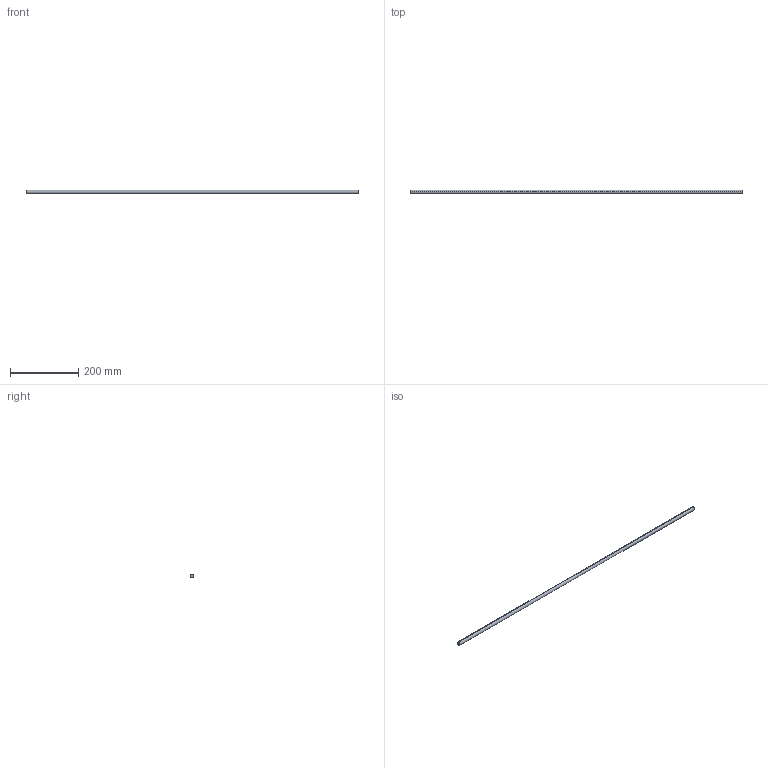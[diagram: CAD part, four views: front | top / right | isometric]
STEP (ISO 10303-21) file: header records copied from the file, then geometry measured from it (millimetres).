
FILE_DESCRIPTION (( 'STEP AP214' ), '1' );
FILE_NAME ('Querreling_2S-Rel_7102_25mm-Halter_KAB-1050.step', '2010-09-22T15:06:08', ( 'grass' ), ( '' ), 'SwSTEP 2.0', 'SolidWorks 2010', '' );
FILE_SCHEMA (( 'AUTOMOTIVE_DESIGN' ));
Length unit declared in the file: millimetre
Products named in the file (1): Querreling_2S-Rel_7102_25mm-Halter_KAB-1050
Bounding box: 974 x 11 x 11 mm (x, y, z)
Volume: 92562.3 mm3; surface area: 33849.1 mm2
Topology: 1 solids, 1 shells, 4 faces, 6 edges, 4 vertices
Faces by surface type: cylinder 2, plane 2
Entity records: 128 total; most frequent: DIRECTION 20, CARTESIAN_POINT 15, ORIENTED_EDGE 12, AXIS2_PLACEMENT_3D 9, EDGE_CURVE 6, VERTEX_POINT 4, EDGE_LOOP 4, FACE_OUTER_BOUND 4
